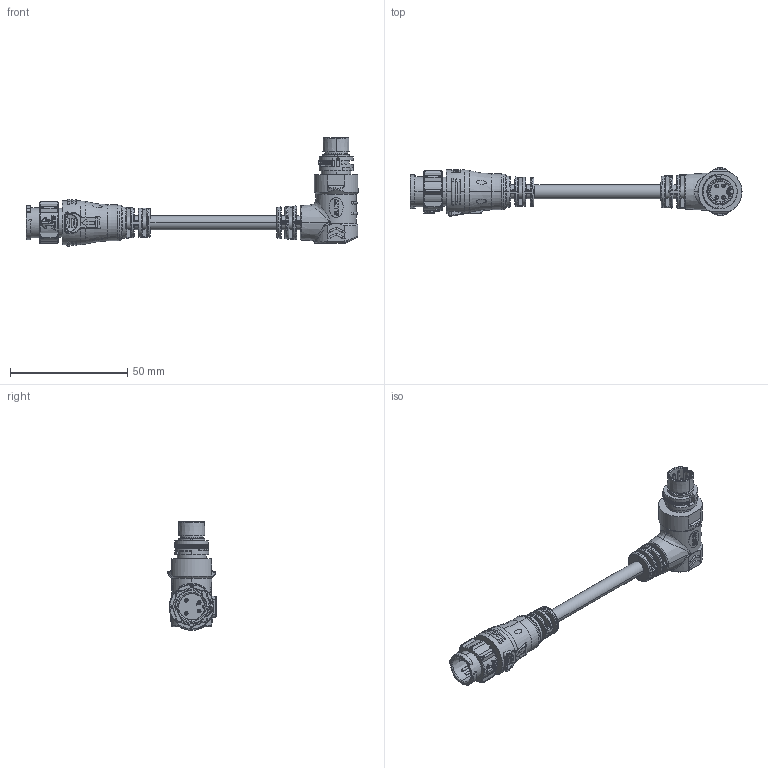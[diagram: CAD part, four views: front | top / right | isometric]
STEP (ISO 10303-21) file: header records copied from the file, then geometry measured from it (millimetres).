
FILE_DESCRIPTION((''),'2;1');
FILE_NAME('AB-BD04ML-BDBR-QDXXX_SW0001','2021-10-19T',('L050004'),(''),'PRO/ENGINEER BY PARAMETRIC TECHNOLOGY CORPORATION, 2017170','PRO/ENGINEER BY PARAMETRIC TECHNOLOGY CORPORATION, 2017170','');
FILE_SCHEMA(('CONFIG_CONTROL_DESIGN'));
Length unit declared in the file: millimetre
Products named in the file (1): AB-BD04ML-BDBR-QDXXX_SW0001
Bounding box: 141.8 x 20.8 x 46.39 mm (x, y, z)
Volume: 21485.6 mm3; surface area: 10103.9 mm2
Topology: 1 solids, 1 shells, 1330 faces, 3678 edges, 2394 vertices
Faces by surface type: plane 481, cylinder 285, bspline 247, extrusion 142, torus 72, cone 66, revolution 29, sphere 8
Entity records: 71951 total; most frequent: CARTESIAN_POINT 41057, ORIENTED_EDGE 7352, DIRECTION 5052, EDGE_CURVE 3676, VERTEX_POINT 2394, AXIS2_PLACEMENT_3D 1787, B_SPLINE_CURVE_WITH_KNOTS 1665, VECTOR 1449
